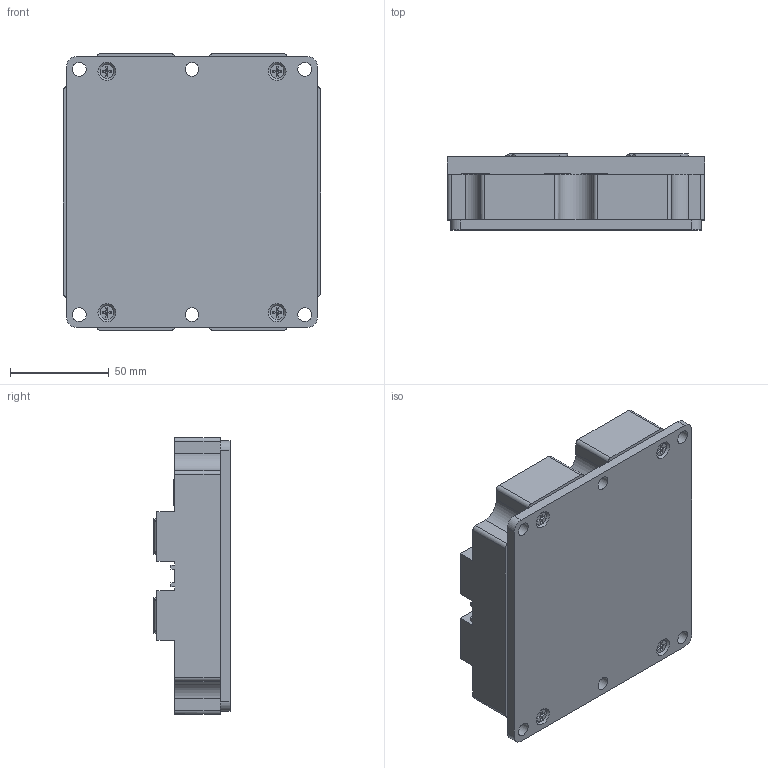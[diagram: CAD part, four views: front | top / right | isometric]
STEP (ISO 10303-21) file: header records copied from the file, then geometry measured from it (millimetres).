
FILE_DESCRIPTION (( 'STEP AP214' ), '1' );
FILE_NAME ('LD-ES-170634-MBL1200E17F.STEP', '2017-08-28T04:19:39', ( 'Flora110' ), ( '' ), 'SwSTEP 2.0', 'SolidWorks 2010', '' );
FILE_SCHEMA (( 'AUTOMOTIVE_DESIGN' ));
Length unit declared in the file: millimetre
Products named in the file (1): LD-ES-170634-MBL1200E17F
Bounding box: 130 x 38.5 x 140 mm (x, y, z)
Volume: 523492.1 mm3; surface area: 69644 mm2
Topology: 1 solids, 17 shells, 559 faces, 1444 edges, 950 vertices
Faces by surface type: plane 350, cylinder 117, bspline 92
Full cylindrical faces by diameter (mm): 3.2 x2, 3.5 x4, 4 x3, 4.5 x4, 5 x2, 7 x10, 8 x4, 9 x4, 9.3 x2, 9.5 x2, 18.1 x4, 18.5 x4
Entity records: 24989 total; most frequent: CARTESIAN_POINT 5920, ORIENTED_EDGE 2682, DIRECTION 2451, EDGE_CURVE 1341, VERTEX_POINT 918, VECTOR 839, LINE 839, AXIS2_PLACEMENT_3D 806
